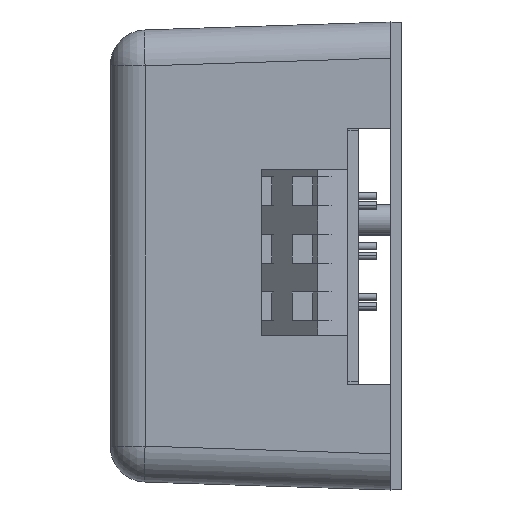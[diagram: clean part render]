
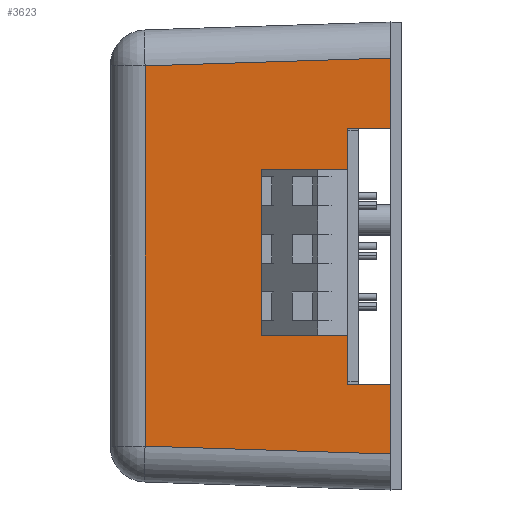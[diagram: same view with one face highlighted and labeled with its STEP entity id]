
A CAD part, left-side view. The second image highlights one B-rep face of the part: STEP entity #3623.
In plain terms, the highlighted planar face has unit normal (-1, 0.032, 0).
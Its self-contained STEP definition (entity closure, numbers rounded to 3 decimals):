
#618 = EDGE_CURVE ( 'NONE', #17295, #6960, #24307, .T. ) ;
#823 = VECTOR ( 'NONE', #14636, 1000. ) ;
#1573 = ORIENTED_EDGE ( 'NONE', *, *, #16231, .T. ) ;
#1705 = VECTOR ( 'NONE', #6335, 1000. ) ;
#2401 = CARTESIAN_POINT ( 'NONE',  ( -53.75, 39., 17.697 ) ) ;
#3022 = VERTEX_POINT ( 'NONE', #3296 ) ;
#3296 = CARTESIAN_POINT ( 'NONE',  ( -53.905, 34.16, 26.408 ) ) ;
#3623 = ADVANCED_FACE ( 'NONE', ( #31929 ), #9803, .F. ) ;
#4430 = EDGE_CURVE ( 'NONE', #6960, #31874, #14567, .T. ) ;
#4764 = DIRECTION ( 'NONE',  ( 0.999, -0.032, 0. ) ) ;
#5637 = EDGE_CURVE ( 'NONE', #3022, #33282, #19728, .T. ) ;
#6066 = VECTOR ( 'NONE', #13090, 1000. ) ;
#6335 = DIRECTION ( 'NONE',  ( -0.032, -0.999, -0.032 ) ) ;
#6960 = VERTEX_POINT ( 'NONE', #20853 ) ;
#7148 = VECTOR ( 'NONE', #28250, 1000. ) ;
#7272 = DIRECTION ( 'NONE',  ( -0.032, -0.999, 0. ) ) ;
#7655 = LINE ( 'NONE', #28509, #6066 ) ;
#8171 = LINE ( 'NONE', #9370, #21038 ) ;
#9370 = CARTESIAN_POINT ( 'NONE',  ( -53.755, 38.84, 26.258 ) ) ;
#9803 = PLANE ( 'NONE',  #32436 ) ;
#9950 = ORIENTED_EDGE ( 'NONE', *, *, #4430, .F. ) ;
#10127 = LINE ( 'NONE', #11713, #1705 ) ;
#10221 = CARTESIAN_POINT ( 'NONE',  ( -55., 0., 32.5 ) ) ;
#11713 = CARTESIAN_POINT ( 'NONE',  ( -53.691, 40.839, -26.194 ) ) ;
#12450 = ORIENTED_EDGE ( 'NONE', *, *, #16879, .F. ) ;
#13090 = DIRECTION ( 'NONE',  ( 0., 0., 1. ) ) ;
#14567 = LINE ( 'NONE', #24161, #27464 ) ;
#14636 = DIRECTION ( 'NONE',  ( 0., 0., -1. ) ) ;
#15719 = VECTOR ( 'NONE', #7272, 1000. ) ;
#16231 = EDGE_CURVE ( 'NONE', #33282, #32643, #10127, .T. ) ;
#16266 = ORIENTED_EDGE ( 'NONE', *, *, #19934, .T. ) ;
#16507 = VERTEX_POINT ( 'NONE', #28356 ) ;
#16879 = EDGE_CURVE ( 'NONE', #31874, #28759, #29448, .T. ) ;
#17295 = VERTEX_POINT ( 'NONE', #19623 ) ;
#18288 = VECTOR ( 'NONE', #20382, 1000. ) ;
#19623 = CARTESIAN_POINT ( 'NONE',  ( -55., 0., 17.697 ) ) ;
#19728 = LINE ( 'NONE', #32650, #823 ) ;
#19934 = EDGE_CURVE ( 'NONE', #17295, #16507, #7655, .T. ) ;
#20152 = CARTESIAN_POINT ( 'NONE',  ( -53.75, 39., 31.25 ) ) ;
#20382 = DIRECTION ( 'NONE',  ( 0.032, 0.999, 0. ) ) ;
#20817 = LINE ( 'NONE', #10221, #7148 ) ;
#20853 = CARTESIAN_POINT ( 'NONE',  ( -54.808, 6., 17.697 ) ) ;
#21038 = VECTOR ( 'NONE', #24774, 1000. ) ;
#21432 = ORIENTED_EDGE ( 'NONE', *, *, #5637, .T. ) ;
#22715 = DIRECTION ( 'NONE',  ( 0.032, 0.999, 0. ) ) ;
#24161 = CARTESIAN_POINT ( 'NONE',  ( -54.808, 6., 31.25 ) ) ;
#24307 = LINE ( 'NONE', #2401, #18288 ) ;
#24444 = EDGE_CURVE ( 'NONE', #16507, #3022, #8171, .T. ) ;
#24774 = DIRECTION ( 'NONE',  ( 0.032, 0.999, -0.032 ) ) ;
#26395 = ORIENTED_EDGE ( 'NONE', *, *, #618, .F. ) ;
#26649 = CARTESIAN_POINT ( 'NONE',  ( -53.905, 34.16, -26.408 ) ) ;
#27037 = EDGE_CURVE ( 'NONE', #32643, #28759, #20817, .T. ) ;
#27413 = CARTESIAN_POINT ( 'NONE',  ( -55., 0., -17.803 ) ) ;
#27464 = VECTOR ( 'NONE', #31950, 1000. ) ;
#27999 = CARTESIAN_POINT ( 'NONE',  ( -54.808, 6., -17.803 ) ) ;
#28250 = DIRECTION ( 'NONE',  ( 0., 0., 1. ) ) ;
#28356 = CARTESIAN_POINT ( 'NONE',  ( -55., 0., 27.503 ) ) ;
#28499 = CARTESIAN_POINT ( 'NONE',  ( -55., 0., -27.503 ) ) ;
#28509 = CARTESIAN_POINT ( 'NONE',  ( -55., 0., 32.5 ) ) ;
#28759 = VERTEX_POINT ( 'NONE', #27413 ) ;
#29093 = ORIENTED_EDGE ( 'NONE', *, *, #24444, .T. ) ;
#29448 = LINE ( 'NONE', #30353, #15719 ) ;
#30353 = CARTESIAN_POINT ( 'NONE',  ( -53.75, 39., -17.803 ) ) ;
#30648 = EDGE_LOOP ( 'NONE', ( #12450, #9950, #26395, #16266, #29093, #21432, #1573, #33402 ) ) ;
#31874 = VERTEX_POINT ( 'NONE', #27999 ) ;
#31929 = FACE_OUTER_BOUND ( 'NONE', #30648, .T. ) ;
#31950 = DIRECTION ( 'NONE',  ( 0., 0., -1. ) ) ;
#32436 = AXIS2_PLACEMENT_3D ( 'NONE', #20152, #4764, #22715 ) ;
#32643 = VERTEX_POINT ( 'NONE', #28499 ) ;
#32650 = CARTESIAN_POINT ( 'NONE',  ( -53.905, 34.16, -31.25 ) ) ;
#33282 = VERTEX_POINT ( 'NONE', #26649 ) ;
#33402 = ORIENTED_EDGE ( 'NONE', *, *, #27037, .T. ) ;
